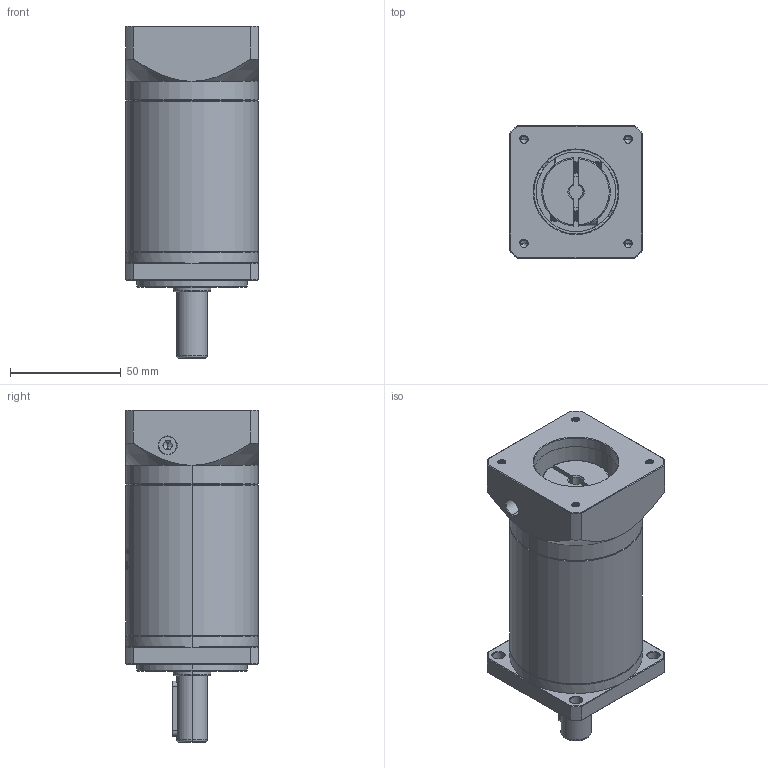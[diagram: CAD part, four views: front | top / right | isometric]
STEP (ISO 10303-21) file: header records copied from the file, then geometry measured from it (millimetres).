
FILE_DESCRIPTION (( 'STEP AP214' ), '1' );
FILE_NAME ('ZF60-D14-L3-6.35-38.1-47.14X47.14-M4.STEP', '2022-04-17T11:22:44', ( '' ), ( 'Microsoft' ), 'SwSTEP 2.0', 'SolidWorks 2016', '' );
FILE_SCHEMA (( 'AUTOMOTIVE_DESIGN' ));
Length unit declared in the file: millimetre
Products named in the file (1): ZF60-D14-L3-6.35-38.1-47.14X47.14-M4
Bounding box: 60 x 60 x 150 mm (x, y, z)
Volume: 325488.4 mm3; surface area: 50317.5 mm2
Topology: 6 solids, 6 shells, 1617 faces, 4370 edges, 2829 vertices
Faces by surface type: plane 744, cylinder 327, bspline 299, cone 227, torus 20
Entity records: 88826 total; most frequent: CARTESIAN_POINT 34071, ORIENTED_EDGE 8712, DIRECTION 6396, EDGE_CURVE 4356, VERTEX_POINT 2829, LINE 2210, VECTOR 2210, AXIS2_PLACEMENT_3D 2093
